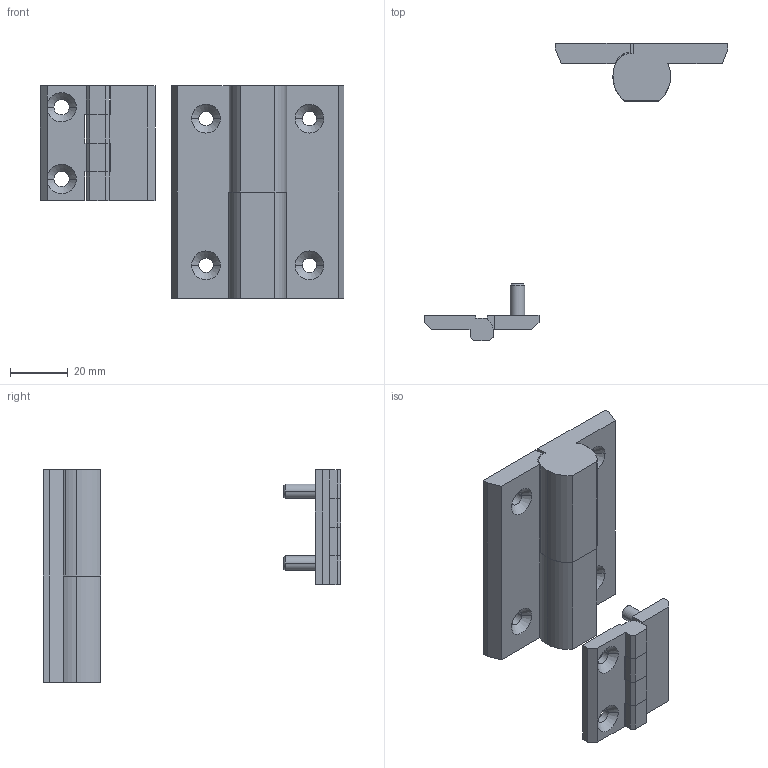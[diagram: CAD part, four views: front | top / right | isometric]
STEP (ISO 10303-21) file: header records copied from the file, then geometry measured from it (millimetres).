
FILE_DESCRIPTION((''),'2;1');
FILE_NAME('6124.01.02.stp','2015-07-17T10:37:26',(''),(''),'Mechanical Desktop 2006','Mechanical Desktop 2006',', , ');
FILE_SCHEMA(('CONFIG_CONTROL_DESIGN'));
Length unit declared in the file: millimetre
Products named in the file (5): 6124.01-02; TEIL1; TEIL2; TEIL3; TEIL4
Assembly tree (4 placements, depth 2):
  6124.01-02
    TEIL1
    TEIL2
    TEIL3
    TEIL4
Bounding box: 105.73 x 103.41 x 74 mm (x, y, z)
Volume: 55087.8 mm3; surface area: 22035.8 mm2
Topology: 4 solids, 4 shells, 137 faces, 364 edges, 238 vertices
Faces by surface type: plane 77, cylinder 44, cone 16
Entity records: 4436 total; most frequent: DIRECTION 758, CARTESIAN_POINT 742, ORIENTED_EDGE 724, EDGE_CURVE 362, VECTOR 254, LINE 254, AXIS2_PLACEMENT_3D 252, VERTEX_POINT 236
